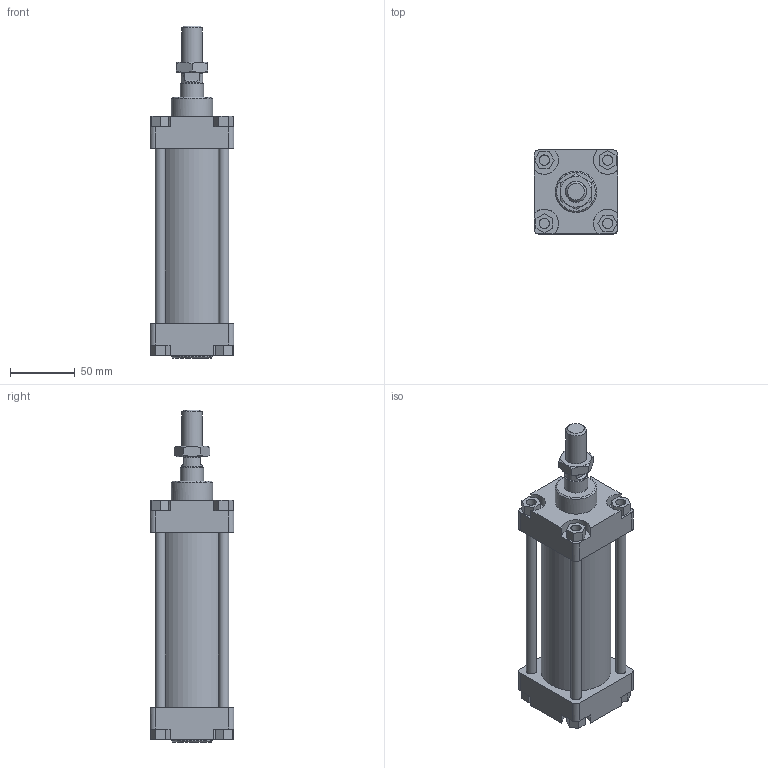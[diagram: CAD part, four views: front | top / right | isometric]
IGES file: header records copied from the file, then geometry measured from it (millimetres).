
Global section: file name: 1303_050_0075_01A; native system: Autodesk Inventor 2014; preprocessor: unknown; author: A. Manieri; date: 20161123.150205; units: millimetre
Bounding box: 65 x 65 x 257 mm (x, y, z)
Volume: 415645.3 mm3; surface area: 125980 mm2
Topology: 9 solids, 9 shells, 163 faces, 401 edges, 268 vertices
Faces by surface type: bspline 163
